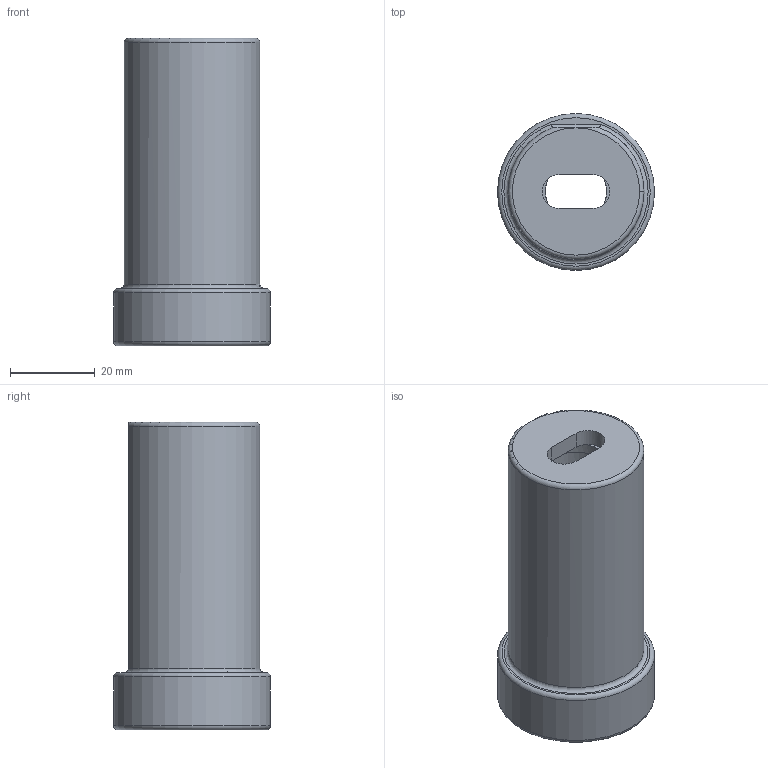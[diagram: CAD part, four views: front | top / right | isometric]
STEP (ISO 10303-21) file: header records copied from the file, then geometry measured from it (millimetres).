
FILE_DESCRIPTION(/* description */ (''),/* implementation_level */ '2;1');
FILE_NAME(/* name */ 'D32-MT2.stp',/* time_stamp */ '2025-09-01T17:31:06+03:00',/* author */ ('User'),/* organization */ (''),/* preprocessor_version */ 'ST-DEVELOPER v19.2',/* originating_system */ 'Autodesk Inventor 2024',/* authorisation */ '');
FILE_SCHEMA (('AUTOMOTIVE_DESIGN { 1 0 10303 214 3 1 1 }'));
Length unit declared in the file: millimetre
Products named in the file (1): D40-MT4
Bounding box: 37 x 37 x 72.5 mm (x, y, z)
Volume: 47087.5 mm3; surface area: 12777.4 mm2
Topology: 1 solids, 1 shells, 22 faces, 49 edges, 30 vertices
Faces by surface type: plane 10, cylinder 6, torus 5, cone 1
Full cylindrical faces by diameter (mm): 14.467 x1, 37 x1
Entity records: 728 total; most frequent: CARTESIAN_POINT 154, DIRECTION 121, ORIENTED_EDGE 98, AXIS2_PLACEMENT_3D 53, EDGE_CURVE 49, CIRCLE 30, VERTEX_POINT 30, EDGE_LOOP 25
